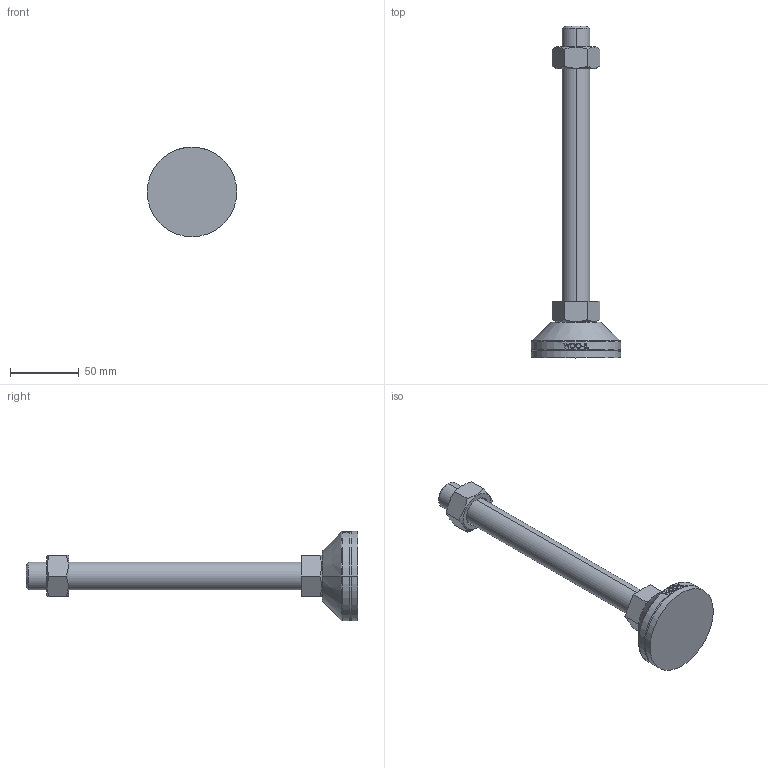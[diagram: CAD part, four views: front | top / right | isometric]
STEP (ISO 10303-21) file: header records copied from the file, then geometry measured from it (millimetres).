
FILE_DESCRIPTION (( 'STEP AP214' ), '1' );
FILE_NAME ('NHNR65-M20-200.step', '2021-01-25T06:18:29', ( '' ), ( '' ), 'SwSTEP 2.0', 'SolidWorks 2019', '' );
FILE_SCHEMA (( 'AUTOMOTIVE_DESIGN' ));
Length unit declared in the file: millimetre
Products named in the file (2): NHNR65-M20-200
Bounding box: 65 x 241 x 65 mm (x, y, z)
Volume: 149526.6 mm3; surface area: 35780 mm2
Topology: 4 solids, 4 shells, 105 faces, 243 edges, 156 vertices
Faces by surface type: plane 49, cylinder 18, bspline 16, cone 14, torus 8
Entity records: 4407 total; most frequent: CARTESIAN_POINT 2070, ORIENTED_EDGE 486, DIRECTION 429, EDGE_CURVE 243, AXIS2_PLACEMENT_3D 165, VERTEX_POINT 156, EDGE_LOOP 117, FACE_OUTER_BOUND 105
